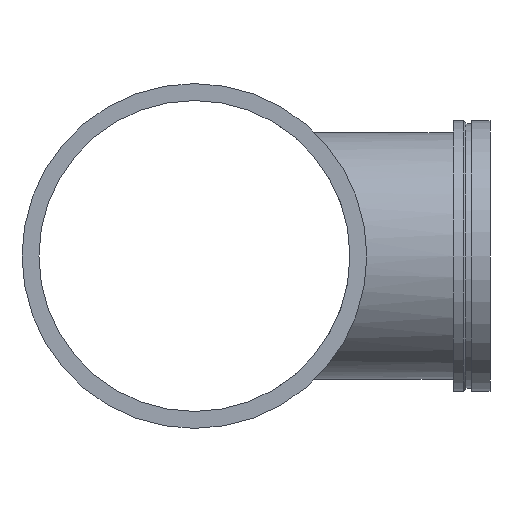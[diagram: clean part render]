
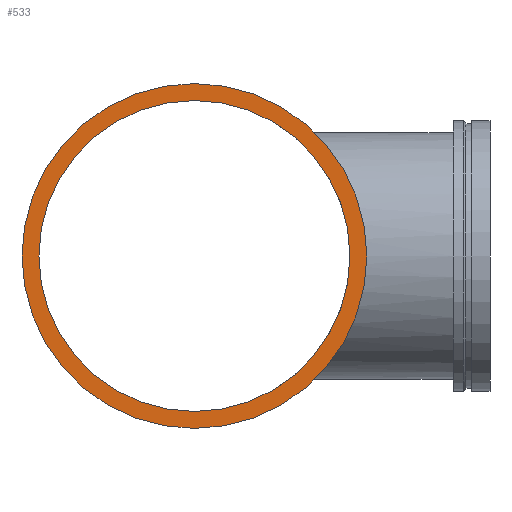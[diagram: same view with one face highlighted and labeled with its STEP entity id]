
A CAD part, left-side view. The second image highlights one B-rep face of the part: STEP entity #533.
In plain terms, the highlighted planar face has unit normal (-1, 0, 0).
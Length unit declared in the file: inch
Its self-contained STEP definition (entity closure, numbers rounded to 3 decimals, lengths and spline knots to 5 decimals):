
#58=FACE_BOUND('',#128,.T.);
#67=PLANE('',#626);
#92=FACE_OUTER_BOUND('',#127,.T.);
#127=EDGE_LOOP('',(#465,#466));
#128=EDGE_LOOP('',(#467,#468));
#151=CIRCLE('',#587,14.);
#152=CIRCLE('',#588,14.);
#175=CIRCLE('',#624,12.625);
#176=CIRCLE('',#625,12.625);
#239=VERTEX_POINT('',#1113);
#240=VERTEX_POINT('',#1115);
#263=VERTEX_POINT('',#1182);
#264=VERTEX_POINT('',#1184);
#299=EDGE_CURVE('',#239,#240,#151,.T.);
#300=EDGE_CURVE('',#240,#239,#152,.T.);
#331=EDGE_CURVE('',#264,#263,#175,.T.);
#332=EDGE_CURVE('',#263,#264,#176,.T.);
#465=ORIENTED_EDGE('',*,*,#300,.F.);
#466=ORIENTED_EDGE('',*,*,#299,.F.);
#467=ORIENTED_EDGE('',*,*,#331,.T.);
#468=ORIENTED_EDGE('',*,*,#332,.T.);
#533=ADVANCED_FACE('',(#92,#58),#67,.T.);
#587=AXIS2_PLACEMENT_3D('',#1116,#716,#717);
#588=AXIS2_PLACEMENT_3D('',#1117,#718,#719);
#624=AXIS2_PLACEMENT_3D('',#1185,#798,#799);
#625=AXIS2_PLACEMENT_3D('',#1186,#800,#801);
#626=AXIS2_PLACEMENT_3D('',#1187,#802,#803);
#716=DIRECTION('center_axis',(1.,0.,0.));
#717=DIRECTION('ref_axis',(0.,0.,1.));
#718=DIRECTION('center_axis',(1.,0.,0.));
#719=DIRECTION('ref_axis',(0.,0.,1.));
#798=DIRECTION('center_axis',(1.,0.,0.));
#799=DIRECTION('ref_axis',(0.,0.,1.));
#800=DIRECTION('center_axis',(1.,0.,0.));
#801=DIRECTION('ref_axis',(0.,0.,1.));
#802=DIRECTION('center_axis',(-1.,0.,0.));
#803=DIRECTION('ref_axis',(0.,0.,-1.));
#1113=CARTESIAN_POINT('',(-25.5,14.,0.));
#1115=CARTESIAN_POINT('',(-25.5,-14.,0.));
#1116=CARTESIAN_POINT('Origin',(-25.5,0.,0.));
#1117=CARTESIAN_POINT('Origin',(-25.5,0.,0.));
#1182=CARTESIAN_POINT('',(-25.5,12.625,0.));
#1184=CARTESIAN_POINT('',(-25.5,-12.625,0.));
#1185=CARTESIAN_POINT('Origin',(-25.5,0.,0.));
#1186=CARTESIAN_POINT('Origin',(-25.5,0.,0.));
#1187=CARTESIAN_POINT('Origin',(-25.5,-14.,0.));
